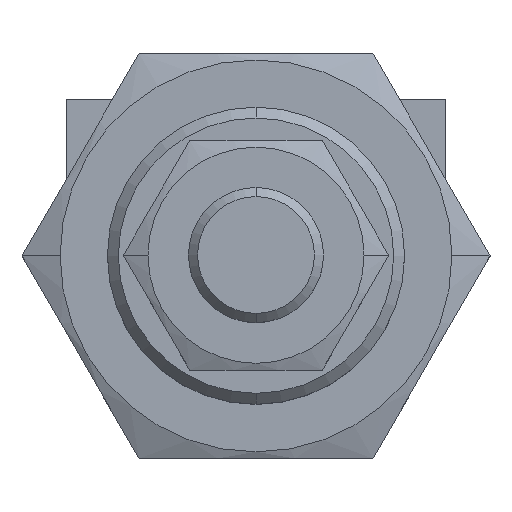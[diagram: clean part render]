
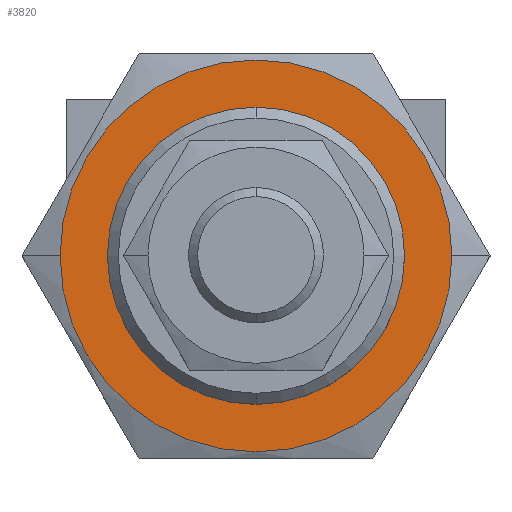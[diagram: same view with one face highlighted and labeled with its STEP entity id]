
A CAD part, top view. The second image highlights one B-rep face of the part: STEP entity #3820.
In plain terms, the highlighted planar face has unit normal (0, 0, 1).
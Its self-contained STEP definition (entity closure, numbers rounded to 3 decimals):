
#3367=CARTESIAN_POINT('',(0.,0.,0.));
#3368=DIRECTION('',(0.,0.,1.));
#3369=DIRECTION('',(0.,1.,0.));
#3370=AXIS2_PLACEMENT_3D('',#3367,#3368,#3369);
#3372=CARTESIAN_POINT('',(0.,0.,0.));
#3373=DIRECTION('',(0.,0.,1.));
#3374=DIRECTION('',(0.,-1.,0.));
#3375=AXIS2_PLACEMENT_3D('',#3372,#3373,#3374);
#3377=CARTESIAN_POINT('',(0.,0.,0.));
#3378=DIRECTION('',(0.,0.,1.));
#3379=DIRECTION('',(0.,1.,0.));
#3380=AXIS2_PLACEMENT_3D('',#3377,#3378,#3379);
#3382=CARTESIAN_POINT('',(0.,0.,0.));
#3383=DIRECTION('',(0.,0.,1.));
#3384=DIRECTION('',(0.,-1.,0.));
#3385=AXIS2_PLACEMENT_3D('',#3382,#3383,#3384);
#3775=CARTESIAN_POINT('',(0.,11.,0.));
#3776=CARTESIAN_POINT('',(0.,-11.,0.));
#3777=VERTEX_POINT('',#3775);
#3778=VERTEX_POINT('',#3776);
#3779=CARTESIAN_POINT('',(0.,14.5,0.));
#3780=CARTESIAN_POINT('',(0.,-14.5,0.));
#3781=VERTEX_POINT('',#3779);
#3782=VERTEX_POINT('',#3780);
#3803=CARTESIAN_POINT('',(0.,0.,0.));
#3804=DIRECTION('',(0.,0.,-1.));
#3805=DIRECTION('',(0.,-1.,0.));
#3806=AXIS2_PLACEMENT_3D('',#3803,#3804,#3805);
#3807=PLANE('',#3806);
#3809=ORIENTED_EDGE('',*,*,#3808,.F.);
#3811=ORIENTED_EDGE('',*,*,#3810,.F.);
#3812=EDGE_LOOP('',(#3809,#3811));
#3813=FACE_OUTER_BOUND('',#3812,.F.);
#3815=ORIENTED_EDGE('',*,*,#3814,.T.);
#3817=ORIENTED_EDGE('',*,*,#3816,.T.);
#3818=EDGE_LOOP('',(#3815,#3817));
#3819=FACE_BOUND('',#3818,.F.);
#3820=ADVANCED_FACE('',(#3813,#3819),#3807,.F.);
#3371=CIRCLE('',#3370,11.);
#3376=CIRCLE('',#3375,11.);
#3381=CIRCLE('',#3380,14.5);
#3386=CIRCLE('',#3385,14.5);
#3808=EDGE_CURVE('',#3781,#3782,#3381,.T.);
#3810=EDGE_CURVE('',#3782,#3781,#3386,.T.);
#3814=EDGE_CURVE('',#3777,#3778,#3371,.T.);
#3816=EDGE_CURVE('',#3778,#3777,#3376,.T.);
